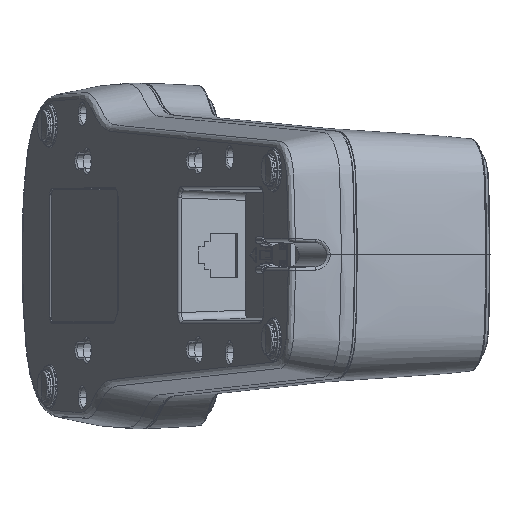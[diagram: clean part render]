
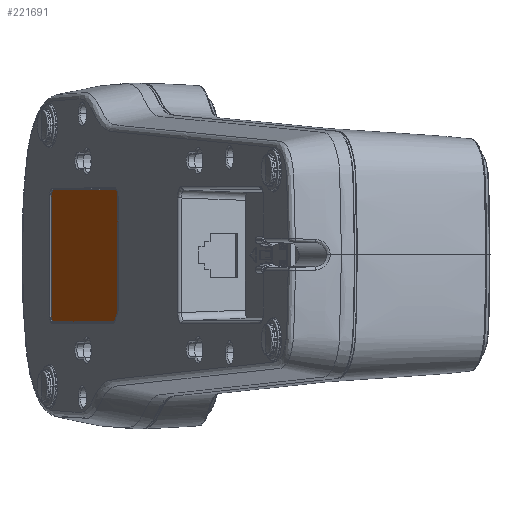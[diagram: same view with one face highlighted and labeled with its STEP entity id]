
A CAD part, top view. The second image highlights one B-rep face of the part: STEP entity #221691.
In plain terms, the highlighted planar face has unit normal (-0.94, 0, 0.342).
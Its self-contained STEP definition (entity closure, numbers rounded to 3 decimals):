
#138813=CARTESIAN_POINT('',(-5.132,-16.707,
54.545));
#138814=CARTESIAN_POINT('',(-5.132,-16.772,
54.545));
#138815=CARTESIAN_POINT('',(-5.137,-16.896,
54.53));
#138816=CARTESIAN_POINT('',(-5.16,-17.063,
54.465));
#138817=CARTESIAN_POINT('',(-5.187,-17.161,
54.393));
#138818=CARTESIAN_POINT('',(-5.202,-17.207,
54.35));
#138820=DIRECTION('',(-0.242,-0.707,
-0.664));
#138821=VECTOR('',#138820,4.01);
#138822=CARTESIAN_POINT('',(-5.202,-17.207,
54.35));
#138823=LINE('',#138822,#138821);
#138824=CARTESIAN_POINT('',(-6.172,-20.043,
51.685));
#138825=CARTESIAN_POINT('',(-6.188,-20.089,
51.642));
#138826=CARTESIAN_POINT('',(-6.222,-20.166,
51.549));
#138827=CARTESIAN_POINT('',(-6.279,-20.235,
51.393));
#138828=CARTESIAN_POINT('',(-6.321,-20.25,51.276));
#138829=CARTESIAN_POINT('',(-6.343,-20.25,51.215));
#138831=DIRECTION('',(-0.342,0.,
-0.94));
#138832=VECTOR('',#138831,54.707);
#138833=CARTESIAN_POINT('',(-6.343,-20.25,51.215));
#138834=LINE('',#138833,#138832);
#138835=CARTESIAN_POINT('',(-25.054,-18.,-0.193));
#138836=DIRECTION('',(0.94,0.,-0.342));
#138837=DIRECTION('',(0.,-1.,0.));
#138838=AXIS2_PLACEMENT_3D('',#138835,#138836,#138837);
#138840=DIRECTION('',(0.,1.,0.));
#138841=VECTOR('',#138840,36.);
#138842=CARTESIAN_POINT('',(-25.824,-18.,
-2.307));
#138843=LINE('',#138842,#138841);
#138844=CARTESIAN_POINT('',(-25.054,18.,-0.193));
#138845=DIRECTION('',(0.94,0.,-0.342));
#138846=DIRECTION('',(-0.342,0.,
-0.94));
#138847=AXIS2_PLACEMENT_3D('',#138844,#138845,#138846);
#138849=DIRECTION('',(0.342,0.,0.94));
#138850=VECTOR('',#138849,56.);
#138851=CARTESIAN_POINT('',(-25.054,20.25,-0.193));
#138852=LINE('',#138851,#138850);
#138853=CARTESIAN_POINT('',(-5.901,18.,52.43));
#138854=DIRECTION('',(0.94,0.,-0.342));
#138855=DIRECTION('',(0.,1.,0.));
#138856=AXIS2_PLACEMENT_3D('',#138853,#138854,#138855);
#138858=DIRECTION('',(0.,-1.,0.));
#138859=VECTOR('',#138858,34.707);
#138860=CARTESIAN_POINT('',(-5.132,18.,
54.545));
#138861=LINE('',#138860,#138859);
#141199=CARTESIAN_POINT('',(-5.901,20.25,52.43));
#141200=VERTEX_POINT('',#141199);
#141201=CARTESIAN_POINT('',(-25.054,20.25,-0.193));
#141202=VERTEX_POINT('',#141201);
#141203=CARTESIAN_POINT('',(-5.132,18.,
54.545));
#141204=VERTEX_POINT('',#141203);
#141205=CARTESIAN_POINT('',(-5.132,-16.707,
54.545));
#141206=VERTEX_POINT('',#141205);
#141207=CARTESIAN_POINT('',(-5.202,-17.207,
54.35));
#141208=VERTEX_POINT('',#141207);
#141209=CARTESIAN_POINT('',(-6.172,-20.043,
51.685));
#141210=VERTEX_POINT('',#141209);
#141211=CARTESIAN_POINT('',(-6.343,-20.25,51.215));
#141212=VERTEX_POINT('',#141211);
#141213=CARTESIAN_POINT('',(-25.054,-20.25,-0.193));
#141214=VERTEX_POINT('',#141213);
#141215=CARTESIAN_POINT('',(-25.824,-18.,
-2.307));
#141216=VERTEX_POINT('',#141215);
#141217=CARTESIAN_POINT('',(-25.824,18.,
-2.307));
#141218=VERTEX_POINT('',#141217);
#221674=CARTESIAN_POINT('',(-22.062,0.,8.03));
#221675=DIRECTION('',(-0.94,0.,0.342));
#221676=DIRECTION('',(0.342,0.,0.94));
#221677=AXIS2_PLACEMENT_3D('',#221674,#221675,#221676);
#221678=PLANE('',#221677);
#221679=ORIENTED_EDGE('',*,*,#221627,.T.);
#221680=ORIENTED_EDGE('',*,*,#221641,.T.);
#221681=ORIENTED_EDGE('',*,*,#221655,.T.);
#221682=ORIENTED_EDGE('',*,*,#221668,.T.);
#221683=ORIENTED_EDGE('',*,*,#221513,.T.);
#221684=ORIENTED_EDGE('',*,*,#221529,.T.);
#221685=ORIENTED_EDGE('',*,*,#221544,.T.);
#221686=ORIENTED_EDGE('',*,*,#221585,.T.);
#221687=ORIENTED_EDGE('',*,*,#221599,.T.);
#221688=ORIENTED_EDGE('',*,*,#221613,.T.);
#221689=EDGE_LOOP('',(#221679,#221680,#221681,#221682,#221683,#221684,#221685,
#221686,#221687,#221688));
#221690=FACE_OUTER_BOUND('',#221689,.F.);
#221691=ADVANCED_FACE('',(#221690),#221678,.T.);
#138819=B_SPLINE_CURVE_WITH_KNOTS('',3,(#138813,#138814,#138815,#138816,#138817,
#138818),.UNSPECIFIED.,.F.,.F.,(4,1,1,4),(0.,0.333,
0.667,1.),.UNSPECIFIED.);
#138830=B_SPLINE_CURVE_WITH_KNOTS('',3,(#138824,#138825,#138826,#138827,#138828,
#138829),.UNSPECIFIED.,.F.,.F.,(4,1,1,4),(0.,0.333,
0.667,1.),.UNSPECIFIED.);
#138839=CIRCLE('',#138838,2.25);
#138848=CIRCLE('',#138847,2.25);
#138857=CIRCLE('',#138856,2.25);
#221513=EDGE_CURVE('',#141214,#141216,#138839,.T.);
#221529=EDGE_CURVE('',#141216,#141218,#138843,.T.);
#221544=EDGE_CURVE('',#141218,#141202,#138848,.T.);
#221585=EDGE_CURVE('',#141202,#141200,#138852,.T.);
#221599=EDGE_CURVE('',#141200,#141204,#138857,.T.);
#221613=EDGE_CURVE('',#141204,#141206,#138861,.T.);
#221627=EDGE_CURVE('',#141206,#141208,#138819,.T.);
#221641=EDGE_CURVE('',#141208,#141210,#138823,.T.);
#221655=EDGE_CURVE('',#141210,#141212,#138830,.T.);
#221668=EDGE_CURVE('',#141212,#141214,#138834,.T.);
